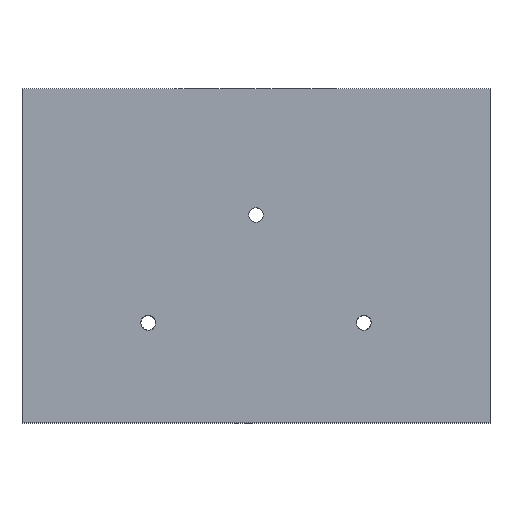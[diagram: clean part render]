
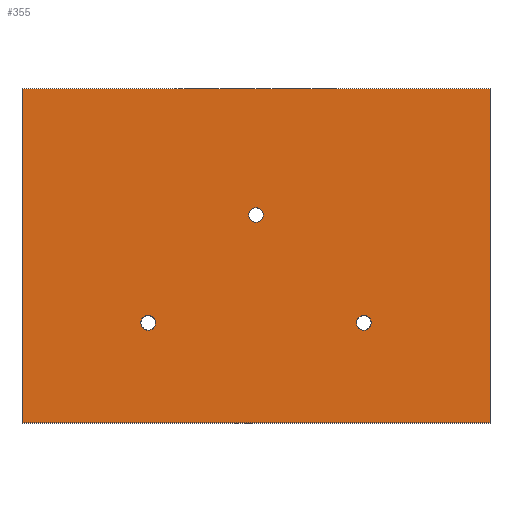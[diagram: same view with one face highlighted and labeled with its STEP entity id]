
A CAD part, top view. The second image highlights one B-rep face of the part: STEP entity #355.
In plain terms, the highlighted planar face has unit normal (0, 0, 1).
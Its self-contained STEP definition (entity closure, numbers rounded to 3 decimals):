
#6 = EDGE_CURVE ( 'NONE', #786, #1038, #1013, .T. ) ;
#31 = CIRCLE ( 'NONE', #1369, 1. ) ;
#51 = VERTEX_POINT ( 'NONE', #1457 ) ;
#76 = EDGE_CURVE ( 'NONE', #1450, #1543, #889, .T. ) ;
#93 = ORIENTED_EDGE ( 'NONE', *, *, #637, .T. ) ;
#112 = CIRCLE ( 'NONE', #1101, 1. ) ;
#157 = DIRECTION ( 'NONE',  ( 1., 0., 0. ) ) ;
#164 = AXIS2_PLACEMENT_3D ( 'NONE', #586, #308, #1076 ) ;
#167 = VERTEX_POINT ( 'NONE', #452 ) ;
#173 = CARTESIAN_POINT ( 'NONE',  ( 31.5, -22.5, 12.5 ) ) ;
#220 = DIRECTION ( 'NONE',  ( 0., 0., 1. ) ) ;
#221 = EDGE_CURVE ( 'NONE', #526, #51, #567, .T. ) ;
#227 = DIRECTION ( 'NONE',  ( 0., -1., 0. ) ) ;
#235 = VERTEX_POINT ( 'NONE', #1611 ) ;
#283 = ORIENTED_EDGE ( 'NONE', *, *, #6, .T. ) ;
#292 = CARTESIAN_POINT ( 'NONE',  ( 14.5, -9., 12.5 ) ) ;
#302 = DIRECTION ( 'NONE',  ( -1., 0., 0. ) ) ;
#308 = DIRECTION ( 'NONE',  ( 0., 0., 1. ) ) ;
#347 = CARTESIAN_POINT ( 'NONE',  ( -31.5, -22.5, 12.5 ) ) ;
#349 = DIRECTION ( 'NONE',  ( 1., 0., 0. ) ) ;
#355 = ADVANCED_FACE ( 'NONE', ( #1518, #1643, #747, #1393 ), #853, .T. ) ;
#372 = VECTOR ( 'NONE', #1580, 1000. ) ;
#406 = ORIENTED_EDGE ( 'NONE', *, *, #1095, .F. ) ;
#416 = ORIENTED_EDGE ( 'NONE', *, *, #986, .F. ) ;
#421 = EDGE_CURVE ( 'NONE', #1032, #235, #112, .T. ) ;
#439 = CARTESIAN_POINT ( 'NONE',  ( -31.5, 22.5, 12.5 ) ) ;
#452 = CARTESIAN_POINT ( 'NONE',  ( -31.5, 22.5, 12.5 ) ) ;
#486 = VECTOR ( 'NONE', #302, 1000. ) ;
#520 = CARTESIAN_POINT ( 'NONE',  ( 13.5, -9., 12.5 ) ) ;
#526 = VERTEX_POINT ( 'NONE', #520 ) ;
#554 = CARTESIAN_POINT ( 'NONE',  ( 0., 5.5, 12.5 ) ) ;
#560 = DIRECTION ( 'NONE',  ( 1., 0., 0. ) ) ;
#567 = CIRCLE ( 'NONE', #164, 1. ) ;
#586 = CARTESIAN_POINT ( 'NONE',  ( 14.5, -9., 12.5 ) ) ;
#614 = DIRECTION ( 'NONE',  ( 1., 0., 0. ) ) ;
#620 = VECTOR ( 'NONE', #227, 1000. ) ;
#633 = CARTESIAN_POINT ( 'NONE',  ( 31.5, 22.5, 12.5 ) ) ;
#634 = EDGE_LOOP ( 'NONE', ( #406, #1272 ) ) ;
#637 = EDGE_CURVE ( 'NONE', #816, #167, #1056, .T. ) ;
#673 = DIRECTION ( 'NONE',  ( 1., 0., 0. ) ) ;
#725 = AXIS2_PLACEMENT_3D ( 'NONE', #923, #767, #673 ) ;
#739 = CARTESIAN_POINT ( 'NONE',  ( -14.5, -9., 12.5 ) ) ;
#747 = FACE_BOUND ( 'NONE', #1560, .T. ) ;
#767 = DIRECTION ( 'NONE',  ( 0., 0., 1. ) ) ;
#786 = VERTEX_POINT ( 'NONE', #347 ) ;
#796 = LINE ( 'NONE', #1330, #372 ) ;
#804 = ORIENTED_EDGE ( 'NONE', *, *, #1224, .T. ) ;
#816 = VERTEX_POINT ( 'NONE', #633 ) ;
#853 = PLANE ( 'NONE',  #1160 ) ;
#878 = CARTESIAN_POINT ( 'NONE',  ( -31.5, 22.5, 12.5 ) ) ;
#889 = CIRCLE ( 'NONE', #725, 1. ) ;
#923 = CARTESIAN_POINT ( 'NONE',  ( 0., 5.5, 12.5 ) ) ;
#949 = DIRECTION ( 'NONE',  ( 0., 0., 1. ) ) ;
#977 = EDGE_LOOP ( 'NONE', ( #416, #1396 ) ) ;
#985 = CARTESIAN_POINT ( 'NONE',  ( 1., 5.5, 12.5 ) ) ;
#986 = EDGE_CURVE ( 'NONE', #51, #526, #1400, .T. ) ;
#1010 = EDGE_CURVE ( 'NONE', #1543, #1450, #31, .T. ) ;
#1013 = LINE ( 'NONE', #1416, #1452 ) ;
#1032 = VERTEX_POINT ( 'NONE', #1352 ) ;
#1038 = VERTEX_POINT ( 'NONE', #173 ) ;
#1056 = LINE ( 'NONE', #439, #486 ) ;
#1076 = DIRECTION ( 'NONE',  ( 1., 0., 0. ) ) ;
#1095 = EDGE_CURVE ( 'NONE', #235, #1032, #1482, .T. ) ;
#1101 = AXIS2_PLACEMENT_3D ( 'NONE', #739, #1680, #614 ) ;
#1133 = ORIENTED_EDGE ( 'NONE', *, *, #1010, .F. ) ;
#1160 = AXIS2_PLACEMENT_3D ( 'NONE', #1257, #1511, #1276 ) ;
#1165 = AXIS2_PLACEMENT_3D ( 'NONE', #1650, #220, #1373 ) ;
#1224 = EDGE_CURVE ( 'NONE', #1038, #816, #796, .T. ) ;
#1257 = CARTESIAN_POINT ( 'NONE',  ( 0., 0., 12.5 ) ) ;
#1262 = CARTESIAN_POINT ( 'NONE',  ( -1., 5.5, 12.5 ) ) ;
#1272 = ORIENTED_EDGE ( 'NONE', *, *, #421, .F. ) ;
#1276 = DIRECTION ( 'NONE',  ( 1., 0., 0. ) ) ;
#1281 = LINE ( 'NONE', #878, #620 ) ;
#1313 = ORIENTED_EDGE ( 'NONE', *, *, #1442, .T. ) ;
#1330 = CARTESIAN_POINT ( 'NONE',  ( 31.5, 22.5, 12.5 ) ) ;
#1333 = DIRECTION ( 'NONE',  ( 0., 0., 1. ) ) ;
#1352 = CARTESIAN_POINT ( 'NONE',  ( -15.5, -9., 12.5 ) ) ;
#1369 = AXIS2_PLACEMENT_3D ( 'NONE', #554, #949, #560 ) ;
#1373 = DIRECTION ( 'NONE',  ( 1., 0., 0. ) ) ;
#1393 = FACE_OUTER_BOUND ( 'NONE', #1521, .T. ) ;
#1396 = ORIENTED_EDGE ( 'NONE', *, *, #221, .F. ) ;
#1400 = CIRCLE ( 'NONE', #1674, 1. ) ;
#1416 = CARTESIAN_POINT ( 'NONE',  ( -31.5, -22.5, 12.5 ) ) ;
#1442 = EDGE_CURVE ( 'NONE', #167, #786, #1281, .T. ) ;
#1450 = VERTEX_POINT ( 'NONE', #985 ) ;
#1452 = VECTOR ( 'NONE', #349, 1000. ) ;
#1457 = CARTESIAN_POINT ( 'NONE',  ( 15.5, -9., 12.5 ) ) ;
#1482 = CIRCLE ( 'NONE', #1165, 1. ) ;
#1511 = DIRECTION ( 'NONE',  ( 0., 0., 1. ) ) ;
#1518 = FACE_BOUND ( 'NONE', #634, .T. ) ;
#1521 = EDGE_LOOP ( 'NONE', ( #1313, #283, #804, #93 ) ) ;
#1533 = ORIENTED_EDGE ( 'NONE', *, *, #76, .F. ) ;
#1543 = VERTEX_POINT ( 'NONE', #1262 ) ;
#1560 = EDGE_LOOP ( 'NONE', ( #1533, #1133 ) ) ;
#1580 = DIRECTION ( 'NONE',  ( 0., 1., 0. ) ) ;
#1611 = CARTESIAN_POINT ( 'NONE',  ( -13.5, -9., 12.5 ) ) ;
#1643 = FACE_BOUND ( 'NONE', #977, .T. ) ;
#1650 = CARTESIAN_POINT ( 'NONE',  ( -14.5, -9., 12.5 ) ) ;
#1674 = AXIS2_PLACEMENT_3D ( 'NONE', #292, #1333, #157 ) ;
#1680 = DIRECTION ( 'NONE',  ( 0., 0., 1. ) ) ;
